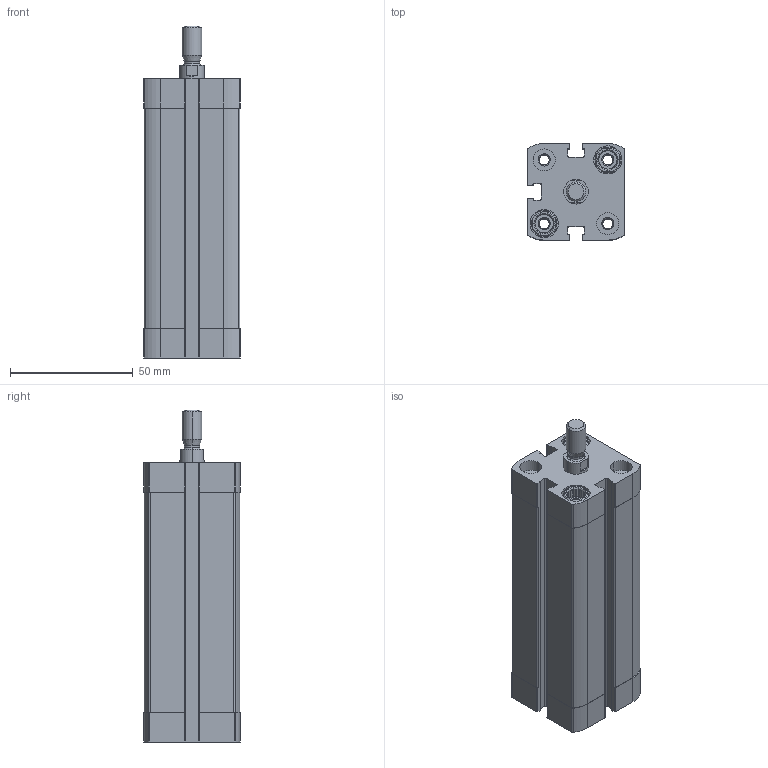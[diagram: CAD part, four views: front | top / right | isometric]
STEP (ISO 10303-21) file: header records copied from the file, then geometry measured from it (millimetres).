
FILE_DESCRIPTION (( 'STEP AP203' ), '1' );
FILE_NAME ('CCN25-75M.STEP', '2017-03-28T18:22:14', ( '' ), ( '' ), 'SwSTEP 2.0', 'SolidWorks 2016', '' );
FILE_SCHEMA (( 'CONFIG_CONTROL_DESIGN' ));
Length unit declared in the file: millimetre
Products named in the file (3): CCN-75---(Z); CCN-75-_(KS); CCN25-75M
Assembly tree (2 placements, depth 2):
  CCN25-75M
    CCN-75---(Z)
    CCN-75-_(KS)
Bounding box: 39.5 x 39.5 x 135.5 mm (x, y, z)
Volume: 120286.8 mm3; surface area: 46581.9 mm2
Topology: 2 solids, 2 shells, 409 faces, 1082 edges, 708 vertices
Faces by surface type: plane 231, cylinder 134, cone 40, bspline 4
Entity records: 13213 total; most frequent: CARTESIAN_POINT 2564, DIRECTION 2218, ORIENTED_EDGE 2164, EDGE_CURVE 1082, AXIS2_PLACEMENT_3D 826, VERTEX_POINT 708, LINE 566, VECTOR 566
